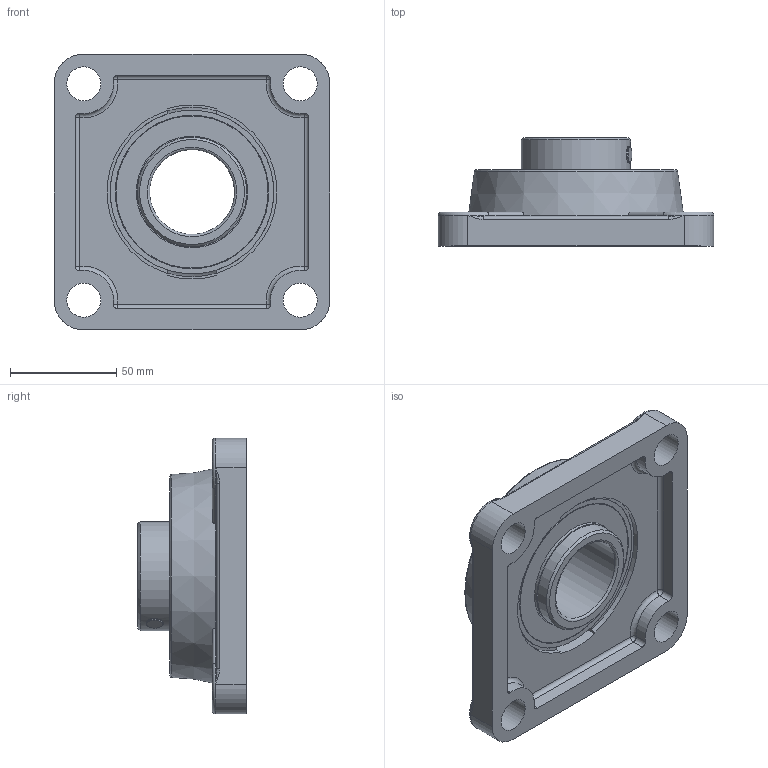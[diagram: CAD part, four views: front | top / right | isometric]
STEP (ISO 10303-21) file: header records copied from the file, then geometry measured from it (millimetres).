
FILE_DESCRIPTION(/* description */ (''),/* implementation_level */ '2;1');
FILE_NAME(/* name */ 'C:\MOJE SUBORY\03_Doplnenie 3D modelov\fgc\FGC208.stp',/* time_stamp */ '2020-12-09T07:57:10+01:00',/* author */ ('OUPIONTEKM'),/* organization */ (''),/* preprocessor_version */ 'ST-DEVELOPER v18.1',/* originating_system */ 'Autodesk Inventor 2021',/* authorisation */ '');
FILE_SCHEMA (('AUTOMOTIVE_DESIGN { 1 0 10303 214 3 1 1 }'));
Length unit declared in the file: millimetre
Products named in the file (10): FGC208; FG208; UC208; UC208-02; UC208-ball; UC208-01; UC208-cage; UC208-seal; M8X6; UC208-shield
Assembly tree (20 placements, depth 3):
  FGC208
    FG208
    UC208
      UC208-02
      UC208-ball  x8
      UC208-01
      UC208-cage  x2
      UC208-seal  x2
      M8X6  x2
      UC208-shield  x2
Bounding box: 130 x 51.2 x 130 mm (x, y, z)
Volume: 249377 mm3; surface area: 104967.5 mm2
Topology: 19 solids, 19 shells, 252 faces, 740 edges, 470 vertices
Faces by surface type: plane 84, cylinder 77, sphere 51, torus 25, bspline 8, cone 7
Full cylindrical faces by diameter (mm): 1.8 x2, 8 x4, 16 x4, 40 x1, 51.6 x6, 52.6 x2, 56.4 x2, 63.6 x2, 68.4 x2, 71.8 x2, 72.4 x4, 80.195 x1, 83.783 x1
Entity records: 8176 total; most frequent: CARTESIAN_POINT 2735, DIRECTION 1164, ORIENTED_EDGE 1034, AXIS2_PLACEMENT_3D 519, EDGE_CURVE 517, VERTEX_POINT 342, CIRCLE 297, EDGE_LOOP 229
